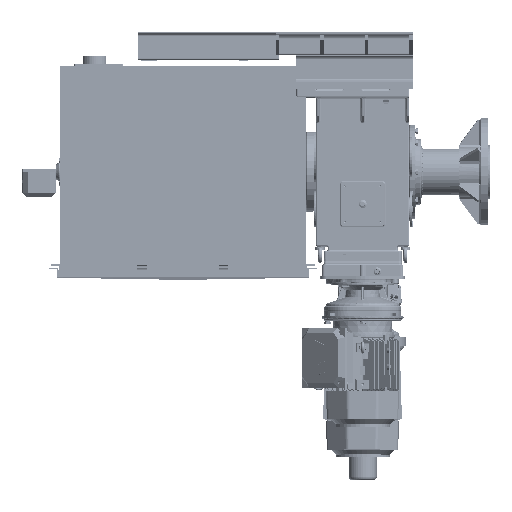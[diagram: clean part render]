
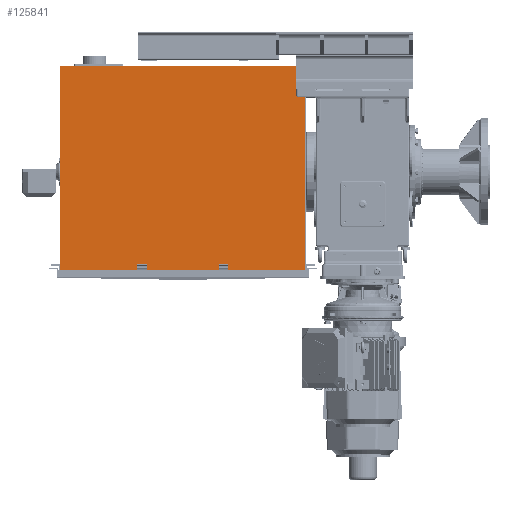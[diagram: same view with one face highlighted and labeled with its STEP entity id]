
A CAD part, top view. The second image highlights one B-rep face of the part: STEP entity #125841.
In plain terms, the highlighted planar face has unit normal (0, 0, 1).
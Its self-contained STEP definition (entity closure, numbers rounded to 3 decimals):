
#4961=LINE('',#183405,#13945);
#4978=LINE('',#183450,#13962);
#4980=LINE('',#183454,#13964);
#4981=LINE('',#183456,#13965);
#4982=LINE('',#183465,#13966);
#4999=LINE('',#183510,#13983);
#5001=LINE('',#183514,#13985);
#5002=LINE('',#183516,#13986);
#5322=LINE('',#184494,#14306);
#5401=LINE('',#184715,#14385);
#5403=LINE('',#184720,#14387);
#5405=LINE('',#184724,#14389);
#5406=LINE('',#184725,#14390);
#5407=LINE('',#184726,#14391);
#5408=LINE('',#184728,#14392);
#5409=LINE('',#184730,#14393);
#5410=LINE('',#184732,#14394);
#5411=LINE('',#184734,#14395);
#5412=LINE('',#184736,#14396);
#5413=LINE('',#184738,#14397);
#5414=LINE('',#184740,#14398);
#5415=LINE('',#184742,#14399);
#5416=LINE('',#184744,#14400);
#5417=LINE('',#184745,#14401);
#13945=VECTOR('',#147124,40.);
#13962=VECTOR('',#147167,40.);
#13964=VECTOR('',#147171,40.);
#13965=VECTOR('',#147174,40.);
#13966=VECTOR('',#147183,40.);
#13983=VECTOR('',#147226,40.);
#13985=VECTOR('',#147230,40.);
#13986=VECTOR('',#147233,40.);
#14306=VECTOR('',#148151,38.828);
#14385=VECTOR('',#148354,71.016);
#14387=VECTOR('',#148358,798.);
#14389=VECTOR('',#148362,38.828);
#14390=VECTOR('',#148363,25.);
#14391=VECTOR('',#148364,1051.);
#14392=VECTOR('',#148365,894.016);
#14393=VECTOR('',#148366,51.016);
#14394=VECTOR('',#148367,2.976);
#14395=VECTOR('',#148368,1.984);
#14396=VECTOR('',#148369,0.992);
#14397=VECTOR('',#148370,945.);
#14398=VECTOR('',#148371,0.992);
#14399=VECTOR('',#148372,1.984);
#14400=VECTOR('',#148373,2.976);
#14401=VECTOR('',#148374,51.016);
#23042=PLANE('',#133661);
#26392=FACE_BOUND('',#35828,.T.);
#26393=FACE_BOUND('',#35829,.T.);
#28120=FACE_OUTER_BOUND('',#35827,.T.);
#35827=EDGE_LOOP('',(#81492,#81493,#81494,#81495,#81496,#81497,#81498,#81499,
#81500,#81501,#81502,#81503,#81504,#81505,#81506,#81507));
#35828=EDGE_LOOP('',(#81508,#81509,#81510,#81511));
#35829=EDGE_LOOP('',(#81512,#81513,#81514,#81515));
#50917=VERTEX_POINT('',#183403);
#50918=VERTEX_POINT('',#183404);
#50933=VERTEX_POINT('',#183448);
#50934=VERTEX_POINT('',#183452);
#50937=VERTEX_POINT('',#183463);
#50938=VERTEX_POINT('',#183464);
#50953=VERTEX_POINT('',#183508);
#50954=VERTEX_POINT('',#183512);
#51163=VERTEX_POINT('',#184121);
#51312=VERTEX_POINT('',#184491);
#51313=VERTEX_POINT('',#184493);
#51317=VERTEX_POINT('',#184503);
#51376=VERTEX_POINT('',#184717);
#51377=VERTEX_POINT('',#184719);
#51378=VERTEX_POINT('',#184723);
#51379=VERTEX_POINT('',#184727);
#51380=VERTEX_POINT('',#184729);
#51381=VERTEX_POINT('',#184731);
#51382=VERTEX_POINT('',#184733);
#51383=VERTEX_POINT('',#184735);
#51384=VERTEX_POINT('',#184737);
#51385=VERTEX_POINT('',#184739);
#51386=VERTEX_POINT('',#184741);
#51387=VERTEX_POINT('',#184743);
#62497=EDGE_CURVE('',#50917,#50918,#4961,.T.);
#62520=EDGE_CURVE('',#50918,#50933,#4978,.T.);
#62522=EDGE_CURVE('',#50934,#50917,#4980,.T.);
#62523=EDGE_CURVE('',#50933,#50934,#4981,.T.);
#62526=EDGE_CURVE('',#50937,#50938,#4982,.T.);
#62549=EDGE_CURVE('',#50938,#50953,#4999,.T.);
#62551=EDGE_CURVE('',#50954,#50937,#5001,.T.);
#62552=EDGE_CURVE('',#50953,#50954,#5002,.T.);
#63021=EDGE_CURVE('',#51312,#51313,#5322,.T.);
#63127=EDGE_CURVE('',#51317,#51312,#5401,.T.);
#63129=EDGE_CURVE('',#51376,#51377,#5403,.T.);
#63131=EDGE_CURVE('',#51378,#51376,#5405,.T.);
#63132=EDGE_CURVE('',#51313,#51378,#5406,.T.);
#63133=EDGE_CURVE('',#51317,#51163,#5407,.T.);
#63134=EDGE_CURVE('',#51379,#51163,#5408,.T.);
#63135=EDGE_CURVE('',#51380,#51379,#5409,.T.);
#63136=EDGE_CURVE('',#51380,#51381,#5410,.T.);
#63137=EDGE_CURVE('',#51381,#51382,#5411,.T.);
#63138=EDGE_CURVE('',#51382,#51383,#5412,.T.);
#63139=EDGE_CURVE('',#51383,#51384,#5413,.T.);
#63140=EDGE_CURVE('',#51384,#51385,#5414,.T.);
#63141=EDGE_CURVE('',#51385,#51386,#5415,.T.);
#63142=EDGE_CURVE('',#51386,#51387,#5416,.T.);
#63143=EDGE_CURVE('',#51377,#51387,#5417,.T.);
#81492=ORIENTED_EDGE('',*,*,#63131,.F.);
#81493=ORIENTED_EDGE('',*,*,#63132,.F.);
#81494=ORIENTED_EDGE('',*,*,#63021,.F.);
#81495=ORIENTED_EDGE('',*,*,#63127,.F.);
#81496=ORIENTED_EDGE('',*,*,#63133,.T.);
#81497=ORIENTED_EDGE('',*,*,#63134,.F.);
#81498=ORIENTED_EDGE('',*,*,#63135,.F.);
#81499=ORIENTED_EDGE('',*,*,#63136,.T.);
#81500=ORIENTED_EDGE('',*,*,#63137,.T.);
#81501=ORIENTED_EDGE('',*,*,#63138,.T.);
#81502=ORIENTED_EDGE('',*,*,#63139,.T.);
#81503=ORIENTED_EDGE('',*,*,#63140,.T.);
#81504=ORIENTED_EDGE('',*,*,#63141,.T.);
#81505=ORIENTED_EDGE('',*,*,#63142,.T.);
#81506=ORIENTED_EDGE('',*,*,#63143,.F.);
#81507=ORIENTED_EDGE('',*,*,#63129,.F.);
#81508=ORIENTED_EDGE('',*,*,#62497,.T.);
#81509=ORIENTED_EDGE('',*,*,#62520,.T.);
#81510=ORIENTED_EDGE('',*,*,#62523,.T.);
#81511=ORIENTED_EDGE('',*,*,#62522,.T.);
#81512=ORIENTED_EDGE('',*,*,#62526,.T.);
#81513=ORIENTED_EDGE('',*,*,#62549,.T.);
#81514=ORIENTED_EDGE('',*,*,#62552,.T.);
#81515=ORIENTED_EDGE('',*,*,#62551,.T.);
#125841=ADVANCED_FACE('',(#28120,#26392,#26393),#23042,.F.);
#133661=AXIS2_PLACEMENT_3D('',#184722,#148360,#148361);
#147124=DIRECTION('',(0.,1.,0.));
#147167=DIRECTION('',(1.,0.,0.));
#147171=DIRECTION('',(-1.,0.,0.));
#147174=DIRECTION('',(0.,-1.,0.));
#147183=DIRECTION('',(0.,1.,0.));
#147226=DIRECTION('',(1.,0.,0.));
#147230=DIRECTION('',(-1.,0.,0.));
#147233=DIRECTION('',(0.,-1.,0.));
#148151=DIRECTION('',(-1.,0.,0.));
#148354=DIRECTION('',(0.,-1.,0.));
#148358=DIRECTION('',(0.,-1.,0.));
#148360=DIRECTION('center_axis',(0.,0.,
-1.));
#148361=DIRECTION('ref_axis',(1.,0.,0.));
#148362=DIRECTION('',(1.,0.,0.));
#148363=DIRECTION('',(0.,-1.,0.));
#148364=DIRECTION('',(-1.,0.,0.));
#148365=DIRECTION('',(0.,1.,0.));
#148366=DIRECTION('',(-1.,0.,0.));
#148367=DIRECTION('',(0.,1.,0.));
#148368=DIRECTION('',(1.,0.,0.));
#148369=DIRECTION('',(0.,-1.,0.));
#148370=DIRECTION('',(1.,0.,0.));
#148371=DIRECTION('',(0.,1.,0.));
#148372=DIRECTION('',(1.,0.,0.));
#148373=DIRECTION('',(0.,-1.,0.));
#148374=DIRECTION('',(-1.,0.,0.));
#183403=CARTESIAN_POINT('',(-1177.182,-646.817,872.238));
#183404=CARTESIAN_POINT('',(-1177.182,-606.817,872.238));
#183405=CARTESIAN_POINT('',(-1177.182,-409.737,872.238));
#183448=CARTESIAN_POINT('',(-1137.182,-606.817,872.238));
#183450=CARTESIAN_POINT('',(-1069.682,-606.817,872.238));
#183452=CARTESIAN_POINT('',(-1137.182,-646.817,872.238));
#183454=CARTESIAN_POINT('',(-1069.682,-646.817,872.238));
#183456=CARTESIAN_POINT('',(-1137.182,-409.737,872.238));
#183463=CARTESIAN_POINT('',(-827.182,-646.817,872.238));
#183464=CARTESIAN_POINT('',(-827.182,-606.817,872.238));
#183465=CARTESIAN_POINT('',(-827.182,-409.737,872.238));
#183508=CARTESIAN_POINT('',(-787.182,-606.817,872.238));
#183510=CARTESIAN_POINT('',(-894.682,-606.817,872.238));
#183512=CARTESIAN_POINT('',(-787.182,-646.817,872.238));
#183514=CARTESIAN_POINT('',(-894.682,-646.817,872.238));
#183516=CARTESIAN_POINT('',(-787.182,-409.737,872.238));
#184121=CARTESIAN_POINT('',(-1507.682,241.483,872.238));
#184491=CARTESIAN_POINT('',(-456.682,170.466,872.238));
#184493=CARTESIAN_POINT('',(-495.511,170.466,872.238));
#184494=CARTESIAN_POINT('',(-738.847,170.466,872.238));
#184503=CARTESIAN_POINT('',(-456.682,241.483,872.238));
#184715=CARTESIAN_POINT('',(-456.682,241.483,872.238));
#184717=CARTESIAN_POINT('',(-456.682,145.466,872.238));
#184719=CARTESIAN_POINT('',(-456.682,-652.534,872.238));
#184720=CARTESIAN_POINT('',(-456.682,241.483,872.238));
#184722=CARTESIAN_POINT('Origin',(-982.182,-200.782,872.238));
#184723=CARTESIAN_POINT('',(-495.511,145.466,872.238));
#184724=CARTESIAN_POINT('',(-738.847,145.466,872.238));
#184725=CARTESIAN_POINT('',(-495.511,14.842,872.238));
#184726=CARTESIAN_POINT('',(-982.182,241.483,872.238));
#184727=CARTESIAN_POINT('',(-1507.682,-652.534,872.238));
#184728=CARTESIAN_POINT('',(-1507.682,250.457,872.238));
#184729=CARTESIAN_POINT('',(-1456.666,-652.534,872.238));
#184730=CARTESIAN_POINT('',(-456.682,-652.534,872.238));
#184731=CARTESIAN_POINT('',(-1456.666,-649.558,872.238));
#184732=CARTESIAN_POINT('',(-1456.666,-425.17,872.238));
#184733=CARTESIAN_POINT('',(-1454.682,-649.558,872.238));
#184734=CARTESIAN_POINT('',(-1218.432,-649.558,872.238));
#184735=CARTESIAN_POINT('',(-1454.682,-650.55,872.238));
#184736=CARTESIAN_POINT('',(-1454.682,-426.658,872.238));
#184737=CARTESIAN_POINT('',(-509.682,-650.55,872.238));
#184738=CARTESIAN_POINT('',(-745.932,-650.55,872.238));
#184739=CARTESIAN_POINT('',(-509.682,-649.558,872.238));
#184740=CARTESIAN_POINT('',(-509.682,-425.17,872.238));
#184741=CARTESIAN_POINT('',(-507.699,-649.558,872.238));
#184742=CARTESIAN_POINT('',(-744.94,-649.558,872.238));
#184743=CARTESIAN_POINT('',(-507.699,-652.534,872.238));
#184744=CARTESIAN_POINT('',(-507.699,-426.658,872.238));
#184745=CARTESIAN_POINT('',(-456.682,-652.534,872.238));
